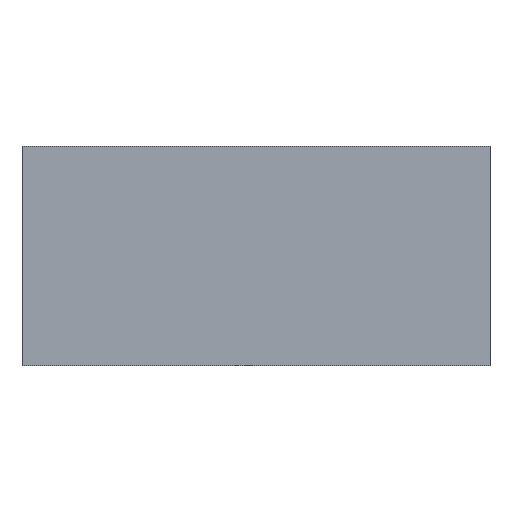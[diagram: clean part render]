
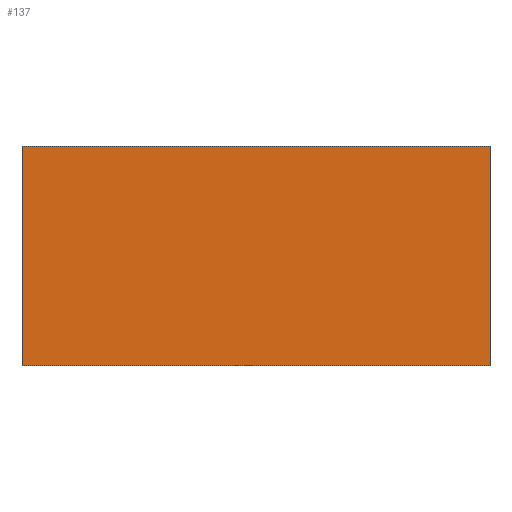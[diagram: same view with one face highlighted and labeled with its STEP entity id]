
A CAD part, front view. The second image highlights one B-rep face of the part: STEP entity #137.
In plain terms, the highlighted planar face has unit normal (0, -1, 0).
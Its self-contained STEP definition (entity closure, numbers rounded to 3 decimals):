
#21 = EDGE_CURVE('',#22,#24,#26,.T.);
#22 = VERTEX_POINT('',#23);
#23 = CARTESIAN_POINT('',(0.,0.,0.));
#24 = VERTEX_POINT('',#25);
#25 = CARTESIAN_POINT('',(0.,0.,15.));
#26 = SURFACE_CURVE('',#27,(#31,#43),.PCURVE_S1.);
#27 = LINE('',#28,#29);
#28 = CARTESIAN_POINT('',(0.,0.,0.));
#29 = VECTOR('',#30,1.);
#30 = DIRECTION('',(0.,0.,1.));
#31 = PCURVE('',#32,#37);
#32 = PLANE('',#33);
#33 = AXIS2_PLACEMENT_3D('',#34,#35,#36);
#34 = CARTESIAN_POINT('',(0.,0.,0.));
#35 = DIRECTION('',(1.,0.,0.));
#36 = DIRECTION('',(0.,0.,1.));
#37 = DEFINITIONAL_REPRESENTATION('',(#38),#42);
#38 = LINE('',#39,#40);
#39 = CARTESIAN_POINT('',(0.,0.));
#40 = VECTOR('',#41,1.);
#41 = DIRECTION('',(1.,0.));
#42 = ( GEOMETRIC_REPRESENTATION_CONTEXT(2) 
PARAMETRIC_REPRESENTATION_CONTEXT() REPRESENTATION_CONTEXT('2D SPACE',''
  ) );
#43 = PCURVE('',#44,#49);
#44 = PLANE('',#45);
#45 = AXIS2_PLACEMENT_3D('',#46,#47,#48);
#46 = CARTESIAN_POINT('',(0.,0.,0.));
#47 = DIRECTION('',(0.,1.,0.));
#48 = DIRECTION('',(0.,0.,1.));
#49 = DEFINITIONAL_REPRESENTATION('',(#50),#54);
#50 = LINE('',#51,#52);
#51 = CARTESIAN_POINT('',(0.,0.));
#52 = VECTOR('',#53,1.);
#53 = DIRECTION('',(1.,0.));
#54 = ( GEOMETRIC_REPRESENTATION_CONTEXT(2) 
PARAMETRIC_REPRESENTATION_CONTEXT() REPRESENTATION_CONTEXT('2D SPACE',''
  ) );
#72 = PLANE('',#73);
#73 = AXIS2_PLACEMENT_3D('',#74,#75,#76);
#74 = CARTESIAN_POINT('',(0.,0.,0.));
#75 = DIRECTION('',(0.,0.,1.));
#76 = DIRECTION('',(1.,0.,0.));
#126 = PLANE('',#127);
#127 = AXIS2_PLACEMENT_3D('',#128,#129,#130);
#128 = CARTESIAN_POINT('',(0.,0.,15.));
#129 = DIRECTION('',(0.,0.,1.));
#130 = DIRECTION('',(1.,0.,0.));
#137 = ADVANCED_FACE('',(#138),#44,.F.);
#138 = FACE_BOUND('',#139,.F.);
#139 = EDGE_LOOP('',(#140,#163,#164,#187));
#140 = ORIENTED_EDGE('',*,*,#141,.F.);
#141 = EDGE_CURVE('',#22,#142,#144,.T.);
#142 = VERTEX_POINT('',#143);
#143 = CARTESIAN_POINT('',(32.,0.,0.));
#144 = SURFACE_CURVE('',#145,(#149,#156),.PCURVE_S1.);
#145 = LINE('',#146,#147);
#146 = CARTESIAN_POINT('',(0.,0.,0.));
#147 = VECTOR('',#148,1.);
#148 = DIRECTION('',(1.,0.,0.));
#149 = PCURVE('',#44,#150);
#150 = DEFINITIONAL_REPRESENTATION('',(#151),#155);
#151 = LINE('',#152,#153);
#152 = CARTESIAN_POINT('',(0.,0.));
#153 = VECTOR('',#154,1.);
#154 = DIRECTION('',(0.,1.));
#155 = ( GEOMETRIC_REPRESENTATION_CONTEXT(2) 
PARAMETRIC_REPRESENTATION_CONTEXT() REPRESENTATION_CONTEXT('2D SPACE',''
  ) );
#156 = PCURVE('',#72,#157);
#157 = DEFINITIONAL_REPRESENTATION('',(#158),#162);
#158 = LINE('',#159,#160);
#159 = CARTESIAN_POINT('',(0.,0.));
#160 = VECTOR('',#161,1.);
#161 = DIRECTION('',(1.,0.));
#162 = ( GEOMETRIC_REPRESENTATION_CONTEXT(2) 
PARAMETRIC_REPRESENTATION_CONTEXT() REPRESENTATION_CONTEXT('2D SPACE',''
  ) );
#163 = ORIENTED_EDGE('',*,*,#21,.T.);
#164 = ORIENTED_EDGE('',*,*,#165,.T.);
#165 = EDGE_CURVE('',#24,#166,#168,.T.);
#166 = VERTEX_POINT('',#167);
#167 = CARTESIAN_POINT('',(32.,0.,15.));
#168 = SURFACE_CURVE('',#169,(#173,#180),.PCURVE_S1.);
#169 = LINE('',#170,#171);
#170 = CARTESIAN_POINT('',(0.,0.,15.));
#171 = VECTOR('',#172,1.);
#172 = DIRECTION('',(1.,0.,0.));
#173 = PCURVE('',#44,#174);
#174 = DEFINITIONAL_REPRESENTATION('',(#175),#179);
#175 = LINE('',#176,#177);
#176 = CARTESIAN_POINT('',(15.,0.));
#177 = VECTOR('',#178,1.);
#178 = DIRECTION('',(0.,1.));
#179 = ( GEOMETRIC_REPRESENTATION_CONTEXT(2) 
PARAMETRIC_REPRESENTATION_CONTEXT() REPRESENTATION_CONTEXT('2D SPACE',''
  ) );
#180 = PCURVE('',#126,#181);
#181 = DEFINITIONAL_REPRESENTATION('',(#182),#186);
#182 = LINE('',#183,#184);
#183 = CARTESIAN_POINT('',(0.,0.));
#184 = VECTOR('',#185,1.);
#185 = DIRECTION('',(1.,0.));
#186 = ( GEOMETRIC_REPRESENTATION_CONTEXT(2) 
PARAMETRIC_REPRESENTATION_CONTEXT() REPRESENTATION_CONTEXT('2D SPACE',''
  ) );
#187 = ORIENTED_EDGE('',*,*,#188,.F.);
#188 = EDGE_CURVE('',#142,#166,#189,.T.);
#189 = SURFACE_CURVE('',#190,(#194,#201),.PCURVE_S1.);
#190 = LINE('',#191,#192);
#191 = CARTESIAN_POINT('',(32.,0.,0.));
#192 = VECTOR('',#193,1.);
#193 = DIRECTION('',(0.,0.,1.));
#194 = PCURVE('',#44,#195);
#195 = DEFINITIONAL_REPRESENTATION('',(#196),#200);
#196 = LINE('',#197,#198);
#197 = CARTESIAN_POINT('',(0.,32.));
#198 = VECTOR('',#199,1.);
#199 = DIRECTION('',(1.,0.));
#200 = ( GEOMETRIC_REPRESENTATION_CONTEXT(2) 
PARAMETRIC_REPRESENTATION_CONTEXT() REPRESENTATION_CONTEXT('2D SPACE',''
  ) );
#201 = PCURVE('',#202,#207);
#202 = PLANE('',#203);
#203 = AXIS2_PLACEMENT_3D('',#204,#205,#206);
#204 = CARTESIAN_POINT('',(32.,0.,0.));
#205 = DIRECTION('',(1.,0.,0.));
#206 = DIRECTION('',(0.,0.,1.));
#207 = DEFINITIONAL_REPRESENTATION('',(#208),#212);
#208 = LINE('',#209,#210);
#209 = CARTESIAN_POINT('',(0.,0.));
#210 = VECTOR('',#211,1.);
#211 = DIRECTION('',(1.,0.));
#212 = ( GEOMETRIC_REPRESENTATION_CONTEXT(2) 
PARAMETRIC_REPRESENTATION_CONTEXT() REPRESENTATION_CONTEXT('2D SPACE',''
  ) );
